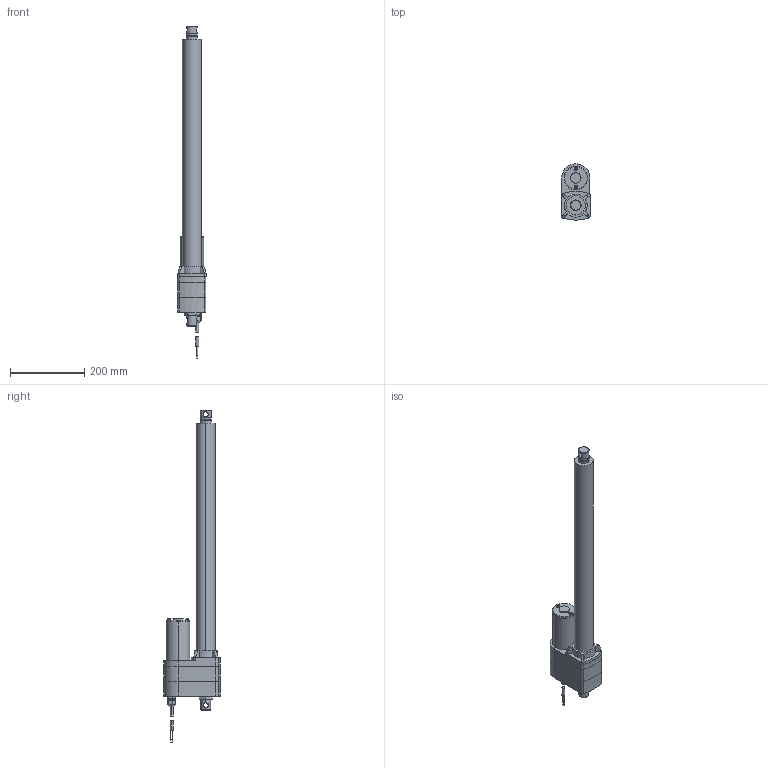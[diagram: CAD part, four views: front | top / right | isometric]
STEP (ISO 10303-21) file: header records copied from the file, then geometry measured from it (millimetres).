
FILE_DESCRIPTION (( 'STEP AP203' ), '1' );
FILE_NAME ('LA10_BALL_18.step', '2021-02-24T15:36:21', ( '' ), ( '' ), 'SwSTEP 2.0', 'SolidWorks 2017', '' );
FILE_SCHEMA (( 'CONFIG_CONTROL_DESIGN' ));
Length unit declared in the file: millimetre
Products named in the file (1): LA10_BALL_18
Bounding box: 77.22 x 151.29 x 893.53 mm (x, y, z)
Volume: 2779403.3 mm3; surface area: 260741.9 mm2
Topology: 14 solids, 14 shells, 327 faces, 704 edges, 436 vertices
Faces by surface type: plane 156, cylinder 103, cone 24, bspline 22, torus 18, sphere 4
Entity records: 10888 total; most frequent: CARTESIAN_POINT 3656, DIRECTION 1547, ORIENTED_EDGE 1408, EDGE_CURVE 704, AXIS2_PLACEMENT_3D 607, VERTEX_POINT 436, EDGE_LOOP 366, LINE 333
